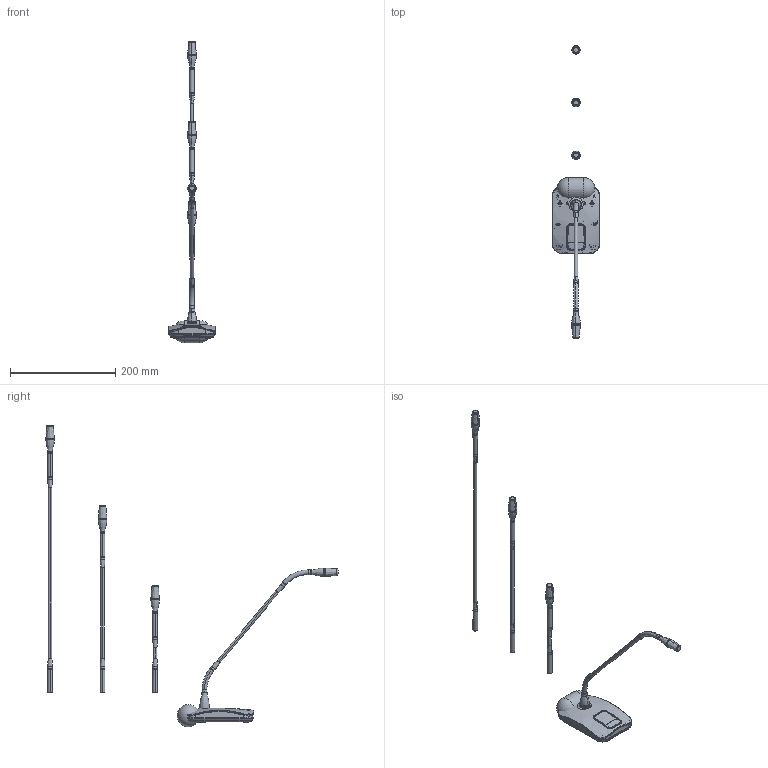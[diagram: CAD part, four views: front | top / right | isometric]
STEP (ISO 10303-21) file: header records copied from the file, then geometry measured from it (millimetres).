
FILE_DESCRIPTION(/* description */ (''),/* implementation_level */ '2;1');
FILE_NAME(/* name */ 'Podium-2020-04-13.stp',/* time_stamp */ '2020-04-13T22:51:59+08:00',/* author */ (''),/* organization */ (''),/* preprocessor_version */ 'ST-DEVELOPER v16',/* originating_system */ 'SIEMENS PLM Software NX 11.0',/* authorisation */ '');
FILE_SCHEMA (('AP203_CONFIGURATION_CONTROLLED_3D_DESIGN_OF_MECHANICAL_PARTS_AND_ASSEMBLIES_MIM_LF { 1 0 10303 403 2 1 2}'));
Products named in the file (1): Podium
Bounding box: 90 x 556.41 x 573.76 mm (x, y, z)
Volume: 271763.8 mm3; surface area: 191865.4 mm2
Topology: 115 solids, 122 shells, 8782 faces, 23560 edges, 15417 vertices
Faces by surface type: plane 5911, cylinder 1243, extrusion 825, bspline 576, torus 97, cone 70, sphere 54, revolution 6
Full cylindrical faces by diameter (mm): 0.56 x2, 0.7 x2, 0.71 x2, 0.8 x10, 0.9 x6, 1.2 x7, 1.234 x2, 1.5 x10, 1.7 x9, 1.981 x1, 2 x1, 2.18 x3, 2.2 x6, 2.4 x3, 2.5 x8, 2.7 x2, 3 x12, 3.2 x4, 3.5 x2, 4 x2, 4.1 x2, 4.2 x2, 4.5 x3, 5.359 x4, 5.5 x4, 5.6 x2, 5.959 x1, 6 x6, 6.2 x2, 6.4 x4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
Entity records: 339636 total; most frequent: CARTESIAN_POINT 121199, ORIENTED_EDGE 46206, DIRECTION 36867, EDGE_CURVE 23115, VECTOR 16533, LINE 15708, VERTEX_POINT 15079, AXIS2_PLACEMENT_3D 10164
